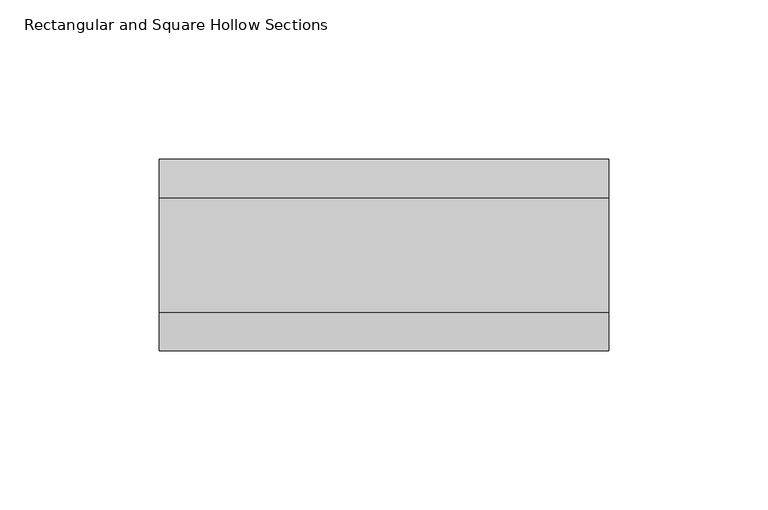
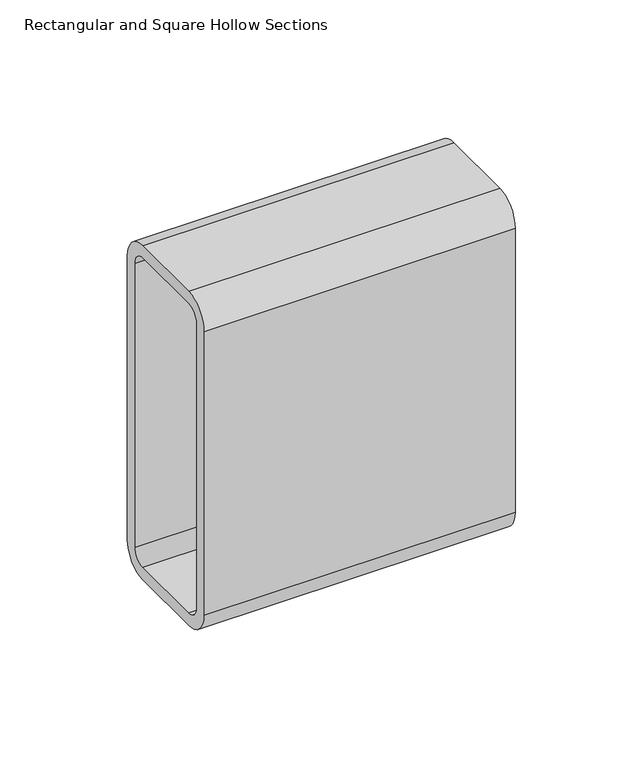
"""IFC4 building model written with IfcOpenShell, lengths in millimetres: beam geometry, Rectangular and Square Hollow Sections : TREC160x60x6."""

from ifc_helpers import new_model, si_unit, point, frame, frame_2d, origin, place, context, project, spatial, polyline, circle_curve, trimmed, segment, composite_curve, outline, extrude, source, transform, mapped, element, save


def rectangular_and_square_hollow_sections_bc173b70(model_context):
    return source(origin(), model_context, "Body", "SweptSolid", [
        extrude(outline(composite_curve([segment(polyline([(30.0, 68.0), (30.0, -68.0)]), True, "CONTINUOUS"), segment(trimmed(circle_curve(frame_2d((18.0, -68.0)), 12.0), [point((30.0, -68.0))], [point((18.0, -80.0))], False, "CARTESIAN"), True, "CONTINUOUS"), segment(polyline([(18.0, -80.0), (-18.0, -80.0)]), True, "CONTINUOUS"), segment(trimmed(circle_curve(frame_2d((-18.0, -68.0)), 12.0), [point((-18.0, -80.0))], [point((-30.0, -68.0))], False, "CARTESIAN"), True, "CONTINUOUS"), segment(polyline([(-30.0, -68.0), (-30.0, 68.0)]), True, "CONTINUOUS"), segment(trimmed(circle_curve(frame_2d((-18.0, 68.0)), 12.0), [point((-30.0, 68.0))], [point((-18.0, 80.0))], False, "CARTESIAN"), True, "CONTINUOUS"), segment(polyline([(-18.0, 80.0), (18.0, 80.0)]), True, "CONTINUOUS"), segment(trimmed(circle_curve(frame_2d((18.0, 68.0)), 12.0), [point((18.0, 80.0))], [point((30.0, 68.0))], False, "CARTESIAN"), True, "CONTINUOUS")], self_intersect=False), holes=[composite_curve([segment(trimmed(circle_curve(frame_2d((-18.0, 68.0)), 6.0), [point((-18.0, 74.0))], [point((-24.0, 68.0))], True, "CARTESIAN"), True, "CONTINUOUS"), segment(polyline([(-24.0, 68.0), (-24.0, -68.0)]), True, "CONTINUOUS"), segment(trimmed(circle_curve(frame_2d((-18.0, -68.0)), 6.0), [point((-24.0, -68.0))], [point((-18.0, -74.0))], True, "CARTESIAN"), True, "CONTINUOUS"), segment(polyline([(-18.0, -74.0), (18.0, -74.0)]), True, "CONTINUOUS"), segment(trimmed(circle_curve(frame_2d((18.0, -68.0)), 6.0), [point((18.0, -74.0))], [point((24.0, -68.0))], True, "CARTESIAN"), True, "CONTINUOUS"), segment(polyline([(24.0, -68.0), (24.0, 68.0)]), True, "CONTINUOUS"), segment(trimmed(circle_curve(frame_2d((18.0, 68.0)), 6.0), [point((24.0, 68.0))], [point((18.0, 74.0))], True, "CARTESIAN"), True, "CONTINUOUS"), segment(polyline([(18.0, 74.0), (-18.0, 74.0)]), True, "CONTINUOUS")], self_intersect=False)]), frame((-70.5, 0.0, 0.0), z_axis=(1.0, 0.0, 0.0), x_axis=(0.0, 1.0, 0.0)), (0.0, 0.0, 1.0), 141.0),
    ])


if __name__ == "__main__":
    model = new_model("IFC4")
    model_context = context("Model", 3, world=origin())
    ifc_project = project(units=[si_unit("LENGTHUNIT", "METRE", prefix="MILLI")], contexts=[model_context])
    site = spatial("IfcSite", under=ifc_project)
    building = spatial("IfcBuilding", under=site)
    placement = place(None, origin())
    rectangular_and_square_hollow_sections_shape = rectangular_and_square_hollow_sections_bc173b70(model_context)
    element("IfcBeam", 1, ObjectType="Rectangular and Square Hollow Sections : TREC160x60x6", at=placement, inside=building, context=model_context, shape_type="MappedRepresentation", body=[
        mapped(rectangular_and_square_hollow_sections_shape, transform((0.0, 0.0, 0.0), x_axis=(1.0, 0.0, 0.0), y_axis=(0.0, 1.0, 0.0), z_axis=(0.0, 0.0, 1.0))),
    ])
    save(model, "model.ifc")
